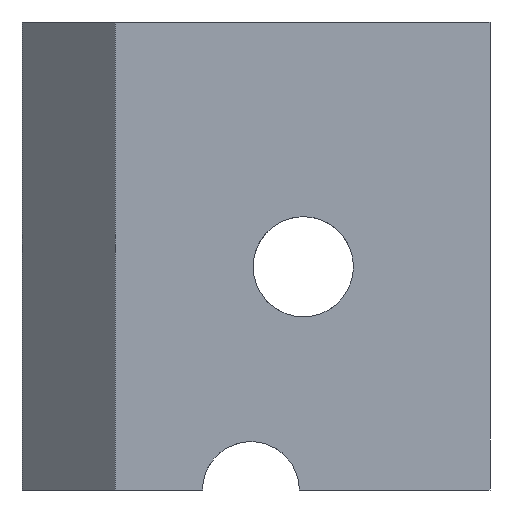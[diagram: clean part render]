
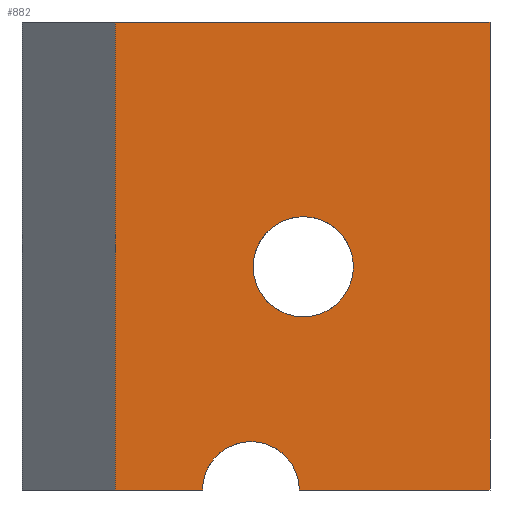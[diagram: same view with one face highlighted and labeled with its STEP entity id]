
A CAD part, front view. The second image highlights one B-rep face of the part: STEP entity #882.
In plain terms, the highlighted planar face has unit normal (0, -1, 0).
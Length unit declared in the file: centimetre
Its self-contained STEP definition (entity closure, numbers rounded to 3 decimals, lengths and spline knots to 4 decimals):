
#5 = VECTOR ( 'NONE', #1580, 100. ) ;
#32 = VERTEX_POINT ( 'NONE', #218 ) ;
#36 = CARTESIAN_POINT ( 'NONE',  ( 199.3097, 0., 1000. ) ) ;
#45 = ORIENTED_EDGE ( 'NONE', *, *, #2171, .T. ) ;
#78 = DIRECTION ( 'NONE',  ( 1., 0., 0. ) ) ;
#89 = CIRCLE ( 'NONE', #2018, 107.0726 ) ;
#120 = CARTESIAN_POINT ( 'NONE',  ( 199.3097, 0., 1000. ) ) ;
#122 = DIRECTION ( 'NONE',  ( 0., 0., -1. ) ) ;
#145 = FACE_OUTER_BOUND ( 'NONE', #1633, .T. ) ;
#175 = VECTOR ( 'NONE', #78, 100. ) ;
#217 = DIRECTION ( 'NONE',  ( 0., 1., 0. ) ) ;
#218 = CARTESIAN_POINT ( 'NONE',  ( 601.0195, 0., 369.9496 ) ) ;
#240 = CARTESIAN_POINT ( 'NONE',  ( 489.1254, 0., 0. ) ) ;
#251 = ORIENTED_EDGE ( 'NONE', *, *, #1121, .F. ) ;
#257 = EDGE_CURVE ( 'NONE', #2532, #32, #2011, .T. ) ;
#288 = EDGE_CURVE ( 'NONE', #1742, #2500, #920, .T. ) ;
#335 = CARTESIAN_POINT ( 'NONE',  ( 1000., 0., 1000. ) ) ;
#350 = FACE_BOUND ( 'NONE', #655, .T. ) ;
#480 = DIRECTION ( 'NONE',  ( 0., 0., -1. ) ) ;
#533 = VERTEX_POINT ( 'NONE', #36 ) ;
#557 = VERTEX_POINT ( 'NONE', #335 ) ;
#569 = VERTEX_POINT ( 'NONE', #1179 ) ;
#655 = EDGE_LOOP ( 'NONE', ( #1959, #2002 ) ) ;
#657 = CARTESIAN_POINT ( 'NONE',  ( 601.0195, 0., 477.0222 ) ) ;
#732 = ORIENTED_EDGE ( 'NONE', *, *, #1722, .T. ) ;
#769 = CARTESIAN_POINT ( 'NONE',  ( 592.5249, 0., 0. ) ) ;
#832 = DIRECTION ( 'NONE',  ( 0., 0., -1. ) ) ;
#865 = PLANE ( 'NONE',  #1183 ) ;
#881 = VECTOR ( 'NONE', #2676, 100. ) ;
#882 = ADVANCED_FACE ( 'NONE', ( #350, #145 ), #865, .F. ) ;
#920 = CIRCLE ( 'NONE', #1006, 103.3996 ) ;
#971 = DIRECTION ( 'NONE',  ( 0., 0., -1. ) ) ;
#1006 = AXIS2_PLACEMENT_3D ( 'NONE', #240, #1084, #122 ) ;
#1013 = VERTEX_POINT ( 'NONE', #2426 ) ;
#1084 = DIRECTION ( 'NONE',  ( 0., -1., 0. ) ) ;
#1121 = EDGE_CURVE ( 'NONE', #533, #557, #2291, .T. ) ;
#1139 = EDGE_CURVE ( 'NONE', #557, #569, #2512, .T. ) ;
#1145 = EDGE_CURVE ( 'NONE', #1742, #569, #1435, .T. ) ;
#1176 = CARTESIAN_POINT ( 'NONE',  ( 601.0195, 0., 477.0222 ) ) ;
#1179 = CARTESIAN_POINT ( 'NONE',  ( 1000., 0., 0. ) ) ;
#1183 = AXIS2_PLACEMENT_3D ( 'NONE', #1473, #217, #1280 ) ;
#1228 = EDGE_CURVE ( 'NONE', #32, #2532, #89, .T. ) ;
#1273 = CARTESIAN_POINT ( 'NONE',  ( 0., 0., 0. ) ) ;
#1280 = DIRECTION ( 'NONE',  ( 0., 0., 1. ) ) ;
#1344 = CARTESIAN_POINT ( 'NONE',  ( 385.7258, 0., 0. ) ) ;
#1435 = LINE ( 'NONE', #1273, #2496 ) ;
#1449 = CARTESIAN_POINT ( 'NONE',  ( 1000., 0., 1000. ) ) ;
#1458 = ORIENTED_EDGE ( 'NONE', *, *, #288, .F. ) ;
#1473 = CARTESIAN_POINT ( 'NONE',  ( 0., 0., 1000. ) ) ;
#1580 = DIRECTION ( 'NONE',  ( 0., 0., -1. ) ) ;
#1581 = VECTOR ( 'NONE', #832, 100. ) ;
#1633 = EDGE_LOOP ( 'NONE', ( #45, #1458, #1935, #1806, #251, #732 ) ) ;
#1722 = EDGE_CURVE ( 'NONE', #533, #1013, #1777, .T. ) ;
#1742 = VERTEX_POINT ( 'NONE', #769 ) ;
#1777 = LINE ( 'NONE', #120, #5 ) ;
#1806 = ORIENTED_EDGE ( 'NONE', *, *, #1139, .F. ) ;
#1814 = LINE ( 'NONE', #2642, #175 ) ;
#1935 = ORIENTED_EDGE ( 'NONE', *, *, #1145, .T. ) ;
#1959 = ORIENTED_EDGE ( 'NONE', *, *, #1228, .F. ) ;
#2002 = ORIENTED_EDGE ( 'NONE', *, *, #257, .F. ) ;
#2011 = CIRCLE ( 'NONE', #2439, 107.0726 ) ;
#2018 = AXIS2_PLACEMENT_3D ( 'NONE', #1176, #2651, #971 ) ;
#2156 = CARTESIAN_POINT ( 'NONE',  ( 601.0195, 0., 584.0947 ) ) ;
#2171 = EDGE_CURVE ( 'NONE', #1013, #2500, #1814, .T. ) ;
#2258 = DIRECTION ( 'NONE',  ( 1., 0., 0. ) ) ;
#2291 = LINE ( 'NONE', #2703, #881 ) ;
#2359 = DIRECTION ( 'NONE',  ( 0., -1., 0. ) ) ;
#2426 = CARTESIAN_POINT ( 'NONE',  ( 199.3097, 0., 0. ) ) ;
#2439 = AXIS2_PLACEMENT_3D ( 'NONE', #657, #2359, #480 ) ;
#2496 = VECTOR ( 'NONE', #2258, 100. ) ;
#2500 = VERTEX_POINT ( 'NONE', #1344 ) ;
#2512 = LINE ( 'NONE', #1449, #1581 ) ;
#2532 = VERTEX_POINT ( 'NONE', #2156 ) ;
#2642 = CARTESIAN_POINT ( 'NONE',  ( 0., 0., 0. ) ) ;
#2651 = DIRECTION ( 'NONE',  ( 0., -1., 0. ) ) ;
#2676 = DIRECTION ( 'NONE',  ( 1., 0., 0. ) ) ;
#2703 = CARTESIAN_POINT ( 'NONE',  ( 0., 0., 1000. ) ) ;
